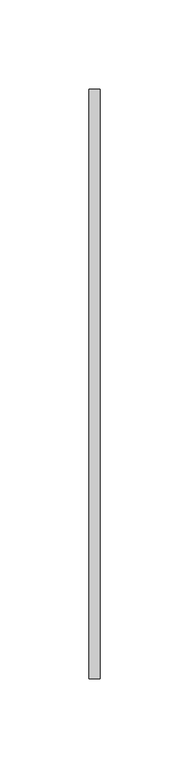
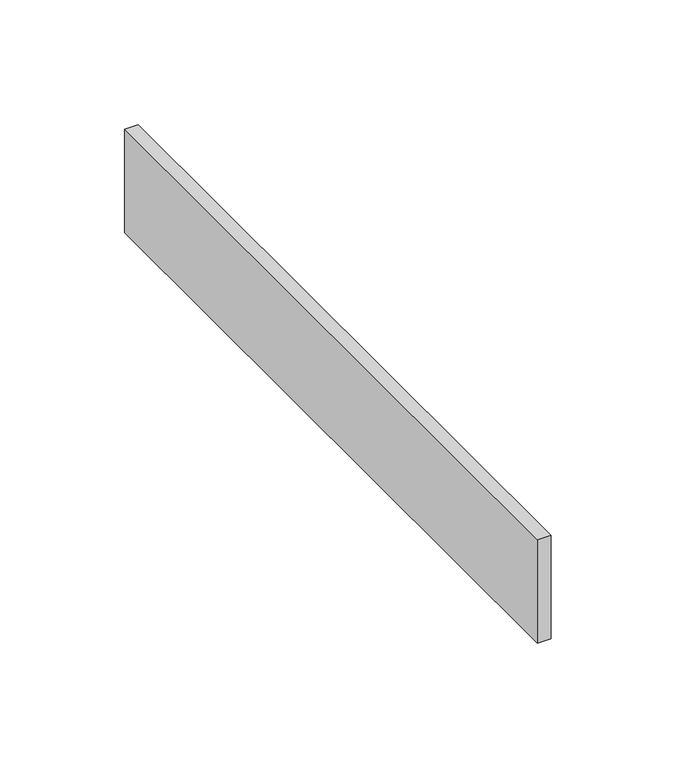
"""IFC4 building model written with IfcOpenShell, lengths in millimetres: beam geometry, Structural Stiffeners 6 : Structural Stiffeners 4."""

from ifc_helpers import new_model, si_unit, frame, origin, place, context, project, spatial, polyline, outline, extrude, source, transform, mapped, element, save


def beam_b0f6b6d0(model_context):
    return source(origin(), model_context, "Body", "SweptSolid", [
        extrude(outline(polyline([(2234.0305289, 2205.9317836), (2240.3805289, 2205.9317836), (2240.3805289, 1874.605878), (2234.0305289, 1874.605878), (2234.0305289, 2205.9317836)])), frame((0.0, 0.0, 914.4), z_axis=(0.0, 0.0, 1.0), x_axis=(1.0, 0.0, 0.0)), (0.0, 0.0, 1.0), 50.8),
    ])


if __name__ == "__main__":
    model = new_model("IFC4")
    model_context = context("Model", 3, world=origin())
    ifc_project = project(units=[si_unit("LENGTHUNIT", "METRE", prefix="MILLI")], contexts=[model_context])
    site = spatial("IfcSite", under=ifc_project)
    building = spatial("IfcBuilding", under=site)
    placement = place(None, origin())
    beam_shape = beam_b0f6b6d0(model_context)
    element("IfcBeam", 1, ObjectType="Structural Stiffeners 6 : Structural Stiffeners 4", at=placement, inside=building, context=model_context, shape_type="MappedRepresentation", body=[
        mapped(beam_shape, transform((0.0, 0.0, 0.0), x_axis=(1.0, 0.0, 0.0), y_axis=(0.0, 1.0, 0.0), z_axis=(0.0, 0.0, 1.0))),
    ])
    save(model, "model.ifc")
